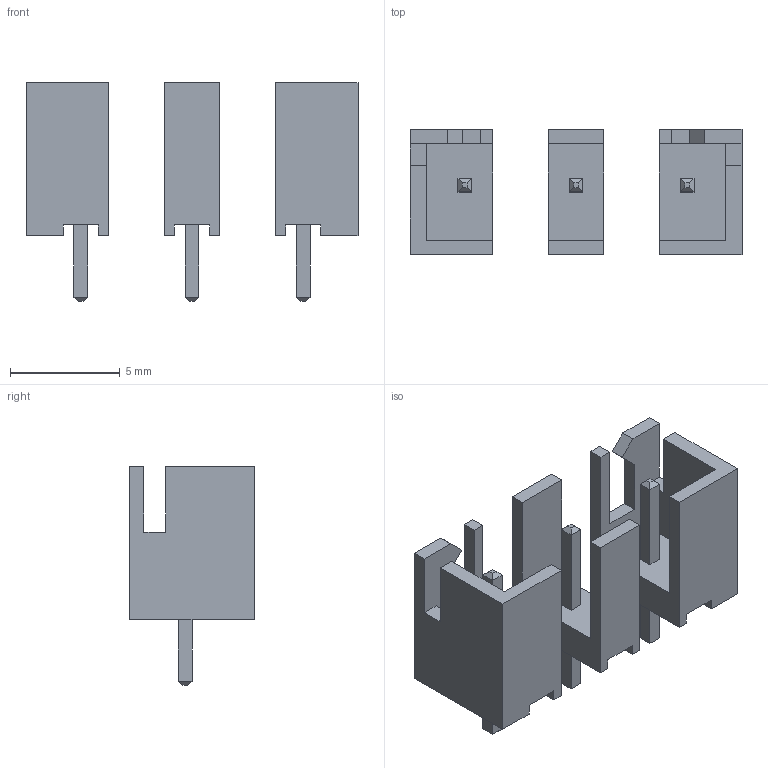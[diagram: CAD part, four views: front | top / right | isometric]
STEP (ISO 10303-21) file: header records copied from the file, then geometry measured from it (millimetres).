
FILE_DESCRIPTION(/* description */ (''),/* implementation_level */ '2;1');
FILE_NAME(/* name */ 'JST 2.54 Infinito.step',/* time_stamp */ '2022-12-12T16:25:08-03:00',/* author */ (''),/* organization */ (''),/* preprocessor_version */ 'ST-DEVELOPER v19.2',/* originating_system */ 'Autodesk Translation Framework v11.17.0.187',/* authorisation */ '');
FILE_SCHEMA (('AUTOMOTIVE_DESIGN { 1 0 10303 214 3 1 1 }'));
Length unit declared in the file: millimetre
Products named in the file (2): JST 2.54 Infinito; Construir JST
Assembly tree (1 placements, depth 2):
  JST 2.54 Infinito
    Construir JST
Bounding box: 15.16 x 5.7 x 10 mm (x, y, z)
Volume: 181.5 mm3; surface area: 594.8 mm2
Topology: 3 solids, 3 shells, 114 faces, 282 edges, 180 vertices
Faces by surface type: plane 114
Entity records: 3393 total; most frequent: CARTESIAN_POINT 579, ORIENTED_EDGE 564, DIRECTION 516, LINE 282, VECTOR 282, EDGE_CURVE 282, VERTEX_POINT 180, EDGE_LOOP 120
